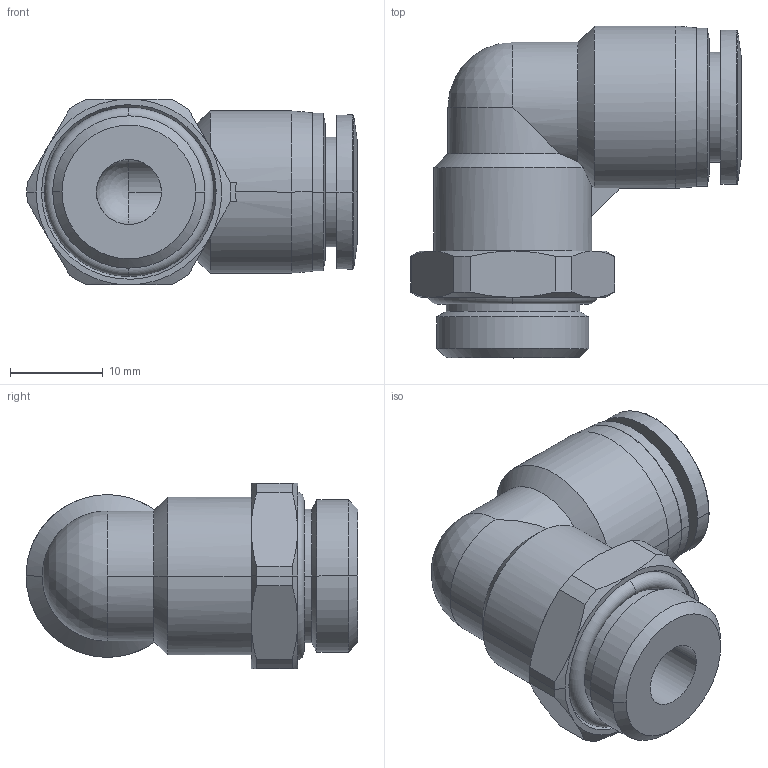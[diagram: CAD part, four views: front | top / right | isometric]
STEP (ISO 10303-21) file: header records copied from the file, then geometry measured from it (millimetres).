
FILE_DESCRIPTION (( 'STEP AP203' ), '1' );
FILE_NAME ('FL10-03.STEP', '2020-05-06T15:03:59', ( '' ), ( '' ), 'SwSTEP 2.0', 'SolidWorks 2019', '' );
FILE_SCHEMA (( 'CONFIG_CONTROL_DESIGN' ));
Length unit declared in the file: millimetre
Products named in the file (1): FL10-03
Bounding box: 35.6 x 35.75 x 20 mm (x, y, z)
Surface area: 5206.2 mm2 (no closed solid volume)
Topology: 0 solids, 4 shells, 92 faces, 223 edges, 139 vertices
Faces by surface type: cylinder 33, cone 30, plane 19, torus 6, bspline 2, sphere 2
Entity records: 4679 total; most frequent: CARTESIAN_POINT 2831, ORIENTED_EDGE 426, DIRECTION 235, EDGE_CURVE 221, B_SPLINE_CURVE_WITH_KNOTS 172, VERTEX_POINT 139, EDGE_LOOP 102, AXIS2_PLACEMENT_3D 97
